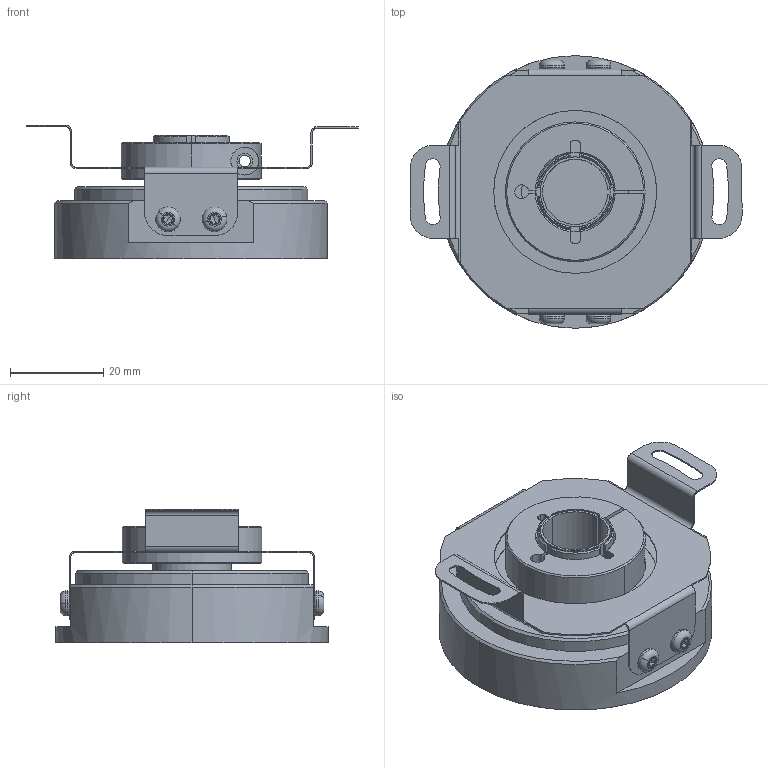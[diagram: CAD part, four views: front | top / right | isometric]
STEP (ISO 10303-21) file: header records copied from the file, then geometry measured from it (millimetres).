
FILE_DESCRIPTION (( 'STEP AP203' ), '1' );
FILE_NAME ('MCD-H14S-Q5B-N.STEP', '2013-04-11T12:50:43', ( '' ), ( '' ), 'SwSTEP 2.0', 'SolidWorks 2006104', '' );
FILE_SCHEMA (( 'CONFIG_CONTROL_DESIGN' ));
Length unit declared in the file: millimetre
Products named in the file (1): MCD-H14S-Q5B-N
Bounding box: 71.24 x 58.5 x 28.73 mm (x, y, z)
Volume: 32711 mm3; surface area: 22492.2 mm2
Topology: 8 solids, 8 shells, 461 faces, 1178 edges, 749 vertices
Faces by surface type: cylinder 161, plane 141, cone 115, torus 40, bspline 4
Entity records: 15357 total; most frequent: CARTESIAN_POINT 3902, DIRECTION 2519, ORIENTED_EDGE 2340, EDGE_CURVE 1170, AXIS2_PLACEMENT_3D 1055, VERTEX_POINT 749, CIRCLE 597, EDGE_LOOP 513
